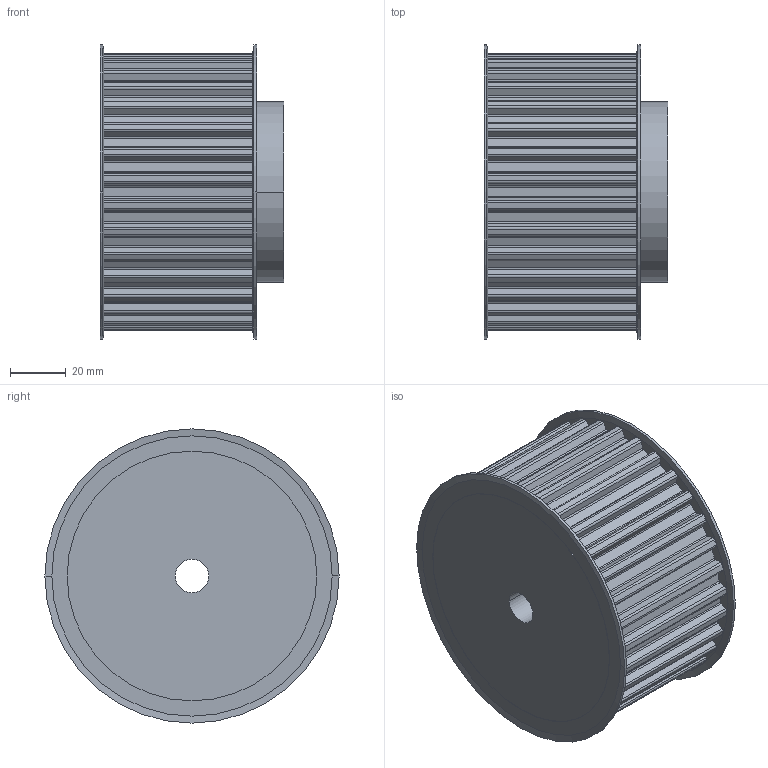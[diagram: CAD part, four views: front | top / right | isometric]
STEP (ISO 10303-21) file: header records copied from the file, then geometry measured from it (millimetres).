
FILE_DESCRIPTION( ( '' ), '1' );
FILE_NAME( 'C:/Users/Stangenbergd/Documents/CAD_Step/1/16453200.stp', '2021-10-19T09:01:46', ( '' ), ( '' ), ' ', ' ', ' ' );
FILE_SCHEMA( ( 'CONFIG_CONTROL_DESIGN' ) );
Length unit declared in the file: millimetre
Products named in the file (1): 1
Bounding box: 66.2 x 106 x 106 mm (x, y, z)
Volume: 435705.1 mm3; surface area: 49664.6 mm2
Topology: 1 solids, 1 shells, 283 faces, 820 edges, 544 vertices
Faces by surface type: cylinder 172, plane 103, cone 8
Entity records: 9510 total; most frequent: DIRECTION 1740, CARTESIAN_POINT 1648, ORIENTED_EDGE 1640, EDGE_CURVE 820, AXIS2_PLACEMENT_3D 636, VERTEX_POINT 544, LINE 468, VECTOR 468
